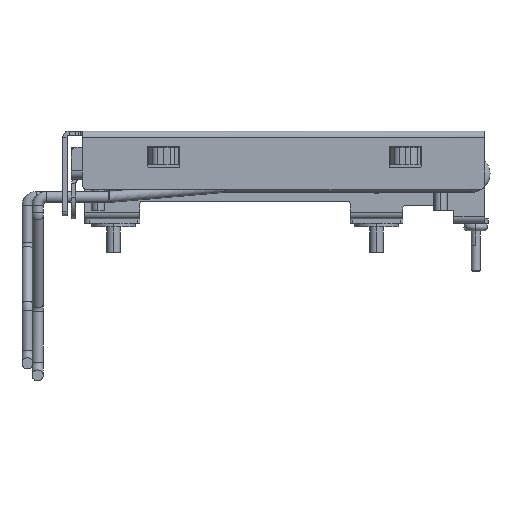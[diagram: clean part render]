
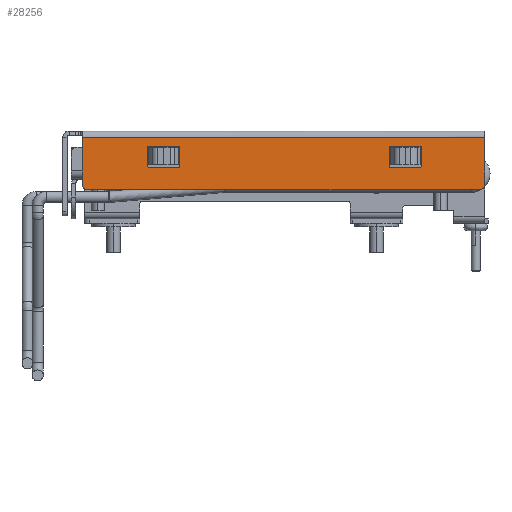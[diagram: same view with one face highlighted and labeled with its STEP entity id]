
A CAD part, left-side view. The second image highlights one B-rep face of the part: STEP entity #28256.
In plain terms, the highlighted planar face has unit normal (-1, 0, 0).
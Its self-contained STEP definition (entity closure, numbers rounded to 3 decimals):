
#3809=DIRECTION('',(0.,0.,-1.));
#3810=VECTOR('',#3809,10.81);
#3811=CARTESIAN_POINT('',(-49.3,32.,19.51));
#3812=LINE('',#3811,#3810);
#3813=CARTESIAN_POINT('',(-49.3,31.,8.7));
#3814=DIRECTION('',(-1.,0.,0.));
#3815=DIRECTION('',(0.,1.,0.));
#3816=AXIS2_PLACEMENT_3D('',#3813,#3814,#3815);
#3818=DIRECTION('',(0.,1.,0.));
#3819=VECTOR('',#3818,91.5);
#3820=CARTESIAN_POINT('',(-49.3,-59.5,19.51));
#3821=LINE('',#3820,#3819);
#3822=CARTESIAN_POINT('',(-49.3,-58.5,8.7));
#3823=DIRECTION('',(-1.,0.,0.));
#3824=DIRECTION('',(0.,0.,-1.));
#3825=AXIS2_PLACEMENT_3D('',#3822,#3823,#3824);
#3827=DIRECTION('',(0.,1.,0.));
#3828=VECTOR('',#3827,89.5);
#3829=CARTESIAN_POINT('',(-49.3,-58.5,7.7));
#3830=LINE('',#3829,#3828);
#3831=DIRECTION('',(0.,0.,-1.));
#3832=VECTOR('',#3831,3.9);
#3833=CARTESIAN_POINT('',(-49.3,9.8,17.1));
#3834=LINE('',#3833,#3832);
#3835=DIRECTION('',(0.,-1.,0.));
#3836=VECTOR('',#3835,6.4);
#3837=CARTESIAN_POINT('',(-49.3,16.7,17.6));
#3838=LINE('',#3837,#3836);
#3839=DIRECTION('',(0.,0.,1.));
#3840=VECTOR('',#3839,3.9);
#3841=CARTESIAN_POINT('',(-49.3,17.2,13.2));
#3842=LINE('',#3841,#3840);
#3843=DIRECTION('',(0.,1.,0.));
#3844=VECTOR('',#3843,6.4);
#3845=CARTESIAN_POINT('',(-49.3,10.3,12.7));
#3846=LINE('',#3845,#3844);
#3847=DIRECTION('',(0.,-1.,0.));
#3848=VECTOR('',#3847,6.4);
#3849=CARTESIAN_POINT('',(-49.3,-38.3,17.6));
#3850=LINE('',#3849,#3848);
#3851=DIRECTION('',(0.,0.,1.));
#3852=VECTOR('',#3851,3.9);
#3853=CARTESIAN_POINT('',(-49.3,-37.8,13.2));
#3854=LINE('',#3853,#3852);
#3855=DIRECTION('',(0.,1.,0.));
#3856=VECTOR('',#3855,6.4);
#3857=CARTESIAN_POINT('',(-49.3,-44.7,12.7));
#3858=LINE('',#3857,#3856);
#3859=DIRECTION('',(0.,0.,-1.));
#3860=VECTOR('',#3859,3.9);
#3861=CARTESIAN_POINT('',(-49.3,-45.2,17.1));
#3862=LINE('',#3861,#3860);
#3867=DIRECTION('',(0.,0.,1.));
#3868=VECTOR('',#3867,10.81);
#3869=CARTESIAN_POINT('',(-49.3,-59.5,8.7));
#3870=LINE('',#3869,#3868);
#3986=CARTESIAN_POINT('',(-49.3,16.7,17.1));
#3987=DIRECTION('',(1.,0.,0.));
#3988=DIRECTION('',(0.,1.,0.));
#3989=AXIS2_PLACEMENT_3D('',#3986,#3987,#3988);
#4004=CARTESIAN_POINT('',(-49.3,16.7,13.2));
#4005=DIRECTION('',(1.,0.,0.));
#4006=DIRECTION('',(0.,0.,-1.));
#4007=AXIS2_PLACEMENT_3D('',#4004,#4005,#4006);
#4022=CARTESIAN_POINT('',(-49.3,10.3,13.2));
#4023=DIRECTION('',(1.,0.,0.));
#4024=DIRECTION('',(0.,-1.,0.));
#4025=AXIS2_PLACEMENT_3D('',#4022,#4023,#4024);
#4040=CARTESIAN_POINT('',(-49.3,10.3,17.1));
#4041=DIRECTION('',(1.,0.,0.));
#4042=DIRECTION('',(0.,0.,1.));
#4043=AXIS2_PLACEMENT_3D('',#4040,#4041,#4042);
#4058=CARTESIAN_POINT('',(-49.3,-38.3,17.1));
#4059=DIRECTION('',(1.,0.,0.));
#4060=DIRECTION('',(0.,1.,0.));
#4061=AXIS2_PLACEMENT_3D('',#4058,#4059,#4060);
#4076=CARTESIAN_POINT('',(-49.3,-44.7,17.1));
#4077=DIRECTION('',(1.,0.,0.));
#4078=DIRECTION('',(0.,0.,1.));
#4079=AXIS2_PLACEMENT_3D('',#4076,#4077,#4078);
#4094=CARTESIAN_POINT('',(-49.3,-44.7,13.2));
#4095=DIRECTION('',(1.,0.,0.));
#4096=DIRECTION('',(0.,-1.,0.));
#4097=AXIS2_PLACEMENT_3D('',#4094,#4095,#4096);
#4112=CARTESIAN_POINT('',(-49.3,-38.3,13.2));
#4113=DIRECTION('',(1.,0.,0.));
#4114=DIRECTION('',(0.,0.,-1.));
#4115=AXIS2_PLACEMENT_3D('',#4112,#4113,#4114);
#21264=CARTESIAN_POINT('',(-49.3,-59.5,19.51));
#21266=VERTEX_POINT('',#21264);
#21267=CARTESIAN_POINT('',(-49.3,32.,19.51));
#21268=VERTEX_POINT('',#21267);
#23885=CARTESIAN_POINT('',(-49.3,17.2,17.1));
#23887=VERTEX_POINT('',#23885);
#23889=CARTESIAN_POINT('',(-49.3,16.7,17.6));
#23891=VERTEX_POINT('',#23889);
#23893=CARTESIAN_POINT('',(-49.3,10.3,17.6));
#23895=VERTEX_POINT('',#23893);
#23897=CARTESIAN_POINT('',(-49.3,9.8,17.1));
#23899=VERTEX_POINT('',#23897);
#23901=CARTESIAN_POINT('',(-49.3,9.8,13.2));
#23903=VERTEX_POINT('',#23901);
#23905=CARTESIAN_POINT('',(-49.3,10.3,12.7));
#23907=VERTEX_POINT('',#23905);
#23909=CARTESIAN_POINT('',(-49.3,16.7,12.7));
#23911=VERTEX_POINT('',#23909);
#23913=CARTESIAN_POINT('',(-49.3,17.2,13.2));
#23915=VERTEX_POINT('',#23913);
#23917=CARTESIAN_POINT('',(-49.3,-45.2,17.1));
#23918=CARTESIAN_POINT('',(-49.3,-45.2,13.2));
#23919=VERTEX_POINT('',#23917);
#23920=VERTEX_POINT('',#23918);
#23921=CARTESIAN_POINT('',(-49.3,-37.8,13.2));
#23922=CARTESIAN_POINT('',(-49.3,-37.8,17.1));
#23923=VERTEX_POINT('',#23921);
#23924=VERTEX_POINT('',#23922);
#23933=CARTESIAN_POINT('',(-49.3,-38.3,17.6));
#23934=VERTEX_POINT('',#23933);
#23937=CARTESIAN_POINT('',(-49.3,-44.7,12.7));
#23938=VERTEX_POINT('',#23937);
#23941=CARTESIAN_POINT('',(-49.3,-44.7,17.6));
#23942=VERTEX_POINT('',#23941);
#23945=CARTESIAN_POINT('',(-49.3,-38.3,12.7));
#23946=VERTEX_POINT('',#23945);
#24261=CARTESIAN_POINT('',(-49.3,32.,8.7));
#24262=CARTESIAN_POINT('',(-49.3,31.,7.7));
#24263=VERTEX_POINT('',#24261);
#24264=VERTEX_POINT('',#24262);
#24273=CARTESIAN_POINT('',(-49.3,-58.5,7.7));
#24274=VERTEX_POINT('',#24273);
#24275=CARTESIAN_POINT('',(-49.3,-59.5,8.7));
#24276=VERTEX_POINT('',#24275);
#28204=CARTESIAN_POINT('',(-49.3,-59.5,19.51));
#28205=DIRECTION('',(1.,0.,0.));
#28206=DIRECTION('',(0.,0.,-1.));
#28207=AXIS2_PLACEMENT_3D('',#28204,#28205,#28206);
#28208=PLANE('',#28207);
#28209=ORIENTED_EDGE('',*,*,#28194,.F.);
#28210=ORIENTED_EDGE('',*,*,#28184,.F.);
#28211=ORIENTED_EDGE('',*,*,#28155,.F.);
#28213=ORIENTED_EDGE('',*,*,#28212,.F.);
#28215=ORIENTED_EDGE('',*,*,#28214,.F.);
#28217=ORIENTED_EDGE('',*,*,#28216,.T.);
#28218=EDGE_LOOP('',(#28209,#28210,#28211,#28213,#28215,#28217));
#28219=FACE_OUTER_BOUND('',#28218,.F.);
#28221=ORIENTED_EDGE('',*,*,#28220,.F.);
#28223=ORIENTED_EDGE('',*,*,#28222,.F.);
#28225=ORIENTED_EDGE('',*,*,#28224,.F.);
#28227=ORIENTED_EDGE('',*,*,#28226,.F.);
#28229=ORIENTED_EDGE('',*,*,#28228,.F.);
#28231=ORIENTED_EDGE('',*,*,#28230,.F.);
#28233=ORIENTED_EDGE('',*,*,#28232,.F.);
#28235=ORIENTED_EDGE('',*,*,#28234,.F.);
#28236=EDGE_LOOP('',(#28221,#28223,#28225,#28227,#28229,#28231,#28233,#28235));
#28237=FACE_BOUND('',#28236,.F.);
#28239=ORIENTED_EDGE('',*,*,#28238,.F.);
#28241=ORIENTED_EDGE('',*,*,#28240,.F.);
#28243=ORIENTED_EDGE('',*,*,#28242,.F.);
#28245=ORIENTED_EDGE('',*,*,#28244,.F.);
#28247=ORIENTED_EDGE('',*,*,#28246,.F.);
#28249=ORIENTED_EDGE('',*,*,#28248,.F.);
#28251=ORIENTED_EDGE('',*,*,#28250,.F.);
#28253=ORIENTED_EDGE('',*,*,#28252,.F.);
#28254=EDGE_LOOP('',(#28239,#28241,#28243,#28245,#28247,#28249,#28251,#28253));
#28255=FACE_BOUND('',#28254,.F.);
#28256=ADVANCED_FACE('',(#28219,#28237,#28255),#28208,.F.);
#3817=CIRCLE('',#3816,1.);
#3826=CIRCLE('',#3825,1.);
#3990=CIRCLE('',#3989,0.5);
#4008=CIRCLE('',#4007,0.5);
#4026=CIRCLE('',#4025,0.5);
#4044=CIRCLE('',#4043,0.5);
#4062=CIRCLE('',#4061,0.5);
#4080=CIRCLE('',#4079,0.5);
#4098=CIRCLE('',#4097,0.5);
#4116=CIRCLE('',#4115,0.5);
#28155=EDGE_CURVE('',#21266,#21268,#3821,.T.);
#28184=EDGE_CURVE('',#21268,#24263,#3812,.T.);
#28194=EDGE_CURVE('',#24263,#24264,#3817,.T.);
#28212=EDGE_CURVE('',#24276,#21266,#3870,.T.);
#28214=EDGE_CURVE('',#24274,#24276,#3826,.T.);
#28216=EDGE_CURVE('',#24274,#24264,#3830,.T.);
#28220=EDGE_CURVE('',#23899,#23903,#3834,.T.);
#28222=EDGE_CURVE('',#23895,#23899,#4044,.T.);
#28224=EDGE_CURVE('',#23891,#23895,#3838,.T.);
#28226=EDGE_CURVE('',#23887,#23891,#3990,.T.);
#28228=EDGE_CURVE('',#23915,#23887,#3842,.T.);
#28230=EDGE_CURVE('',#23911,#23915,#4008,.T.);
#28232=EDGE_CURVE('',#23907,#23911,#3846,.T.);
#28234=EDGE_CURVE('',#23903,#23907,#4026,.T.);
#28238=EDGE_CURVE('',#23934,#23942,#3850,.T.);
#28240=EDGE_CURVE('',#23924,#23934,#4062,.T.);
#28242=EDGE_CURVE('',#23923,#23924,#3854,.T.);
#28244=EDGE_CURVE('',#23946,#23923,#4116,.T.);
#28246=EDGE_CURVE('',#23938,#23946,#3858,.T.);
#28248=EDGE_CURVE('',#23920,#23938,#4098,.T.);
#28250=EDGE_CURVE('',#23919,#23920,#3862,.T.);
#28252=EDGE_CURVE('',#23942,#23919,#4080,.T.);
